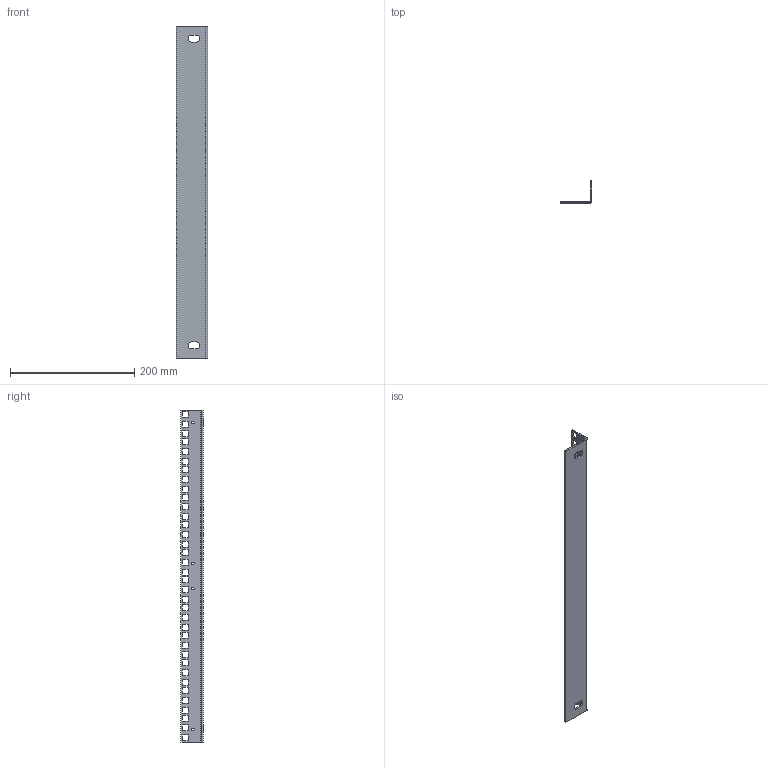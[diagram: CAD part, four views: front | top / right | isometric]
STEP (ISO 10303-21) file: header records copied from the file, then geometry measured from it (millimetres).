
FILE_DESCRIPTION(/* description */ ('Unknown'),/* implementation_level */ '2;1');
FILE_NAME(/* name */ 'H1SRR12U24BK',/* time_stamp */ '2021-03-16T07:56:14-04:00',/* author */ ('Unknown'),/* organization */ ('Unknown'),/* preprocessor_version */ 'ST-DEVELOPER v16.7',/* originating_system */ 'Solid Edge',/* authorisation */ 'Unknown');
FILE_SCHEMA (('AUTOMOTIVE_DESIGN {1 0 10303 214 3 1 1}'));
Length unit declared in the file: millimetre
Products named in the file (1): COM57244-29LW
Bounding box: 50.8 x 35.41 x 534.16 mm (x, y, z)
Volume: 97628.8 mm3; surface area: 88000.3 mm2
Topology: 1 solids, 1 shells, 289 faces, 820 edges, 548 vertices
Faces by surface type: plane 248, cylinder 30, bspline 11
Full cylindrical faces by diameter (mm): 4.496 x4
Entity records: 9782 total; most frequent: CARTESIAN_POINT 2265, ORIENTED_EDGE 1624, DIRECTION 1334, EDGE_CURVE 812, LINE 656, VECTOR 656, VERTEX_POINT 544, EDGE_LOOP 392
